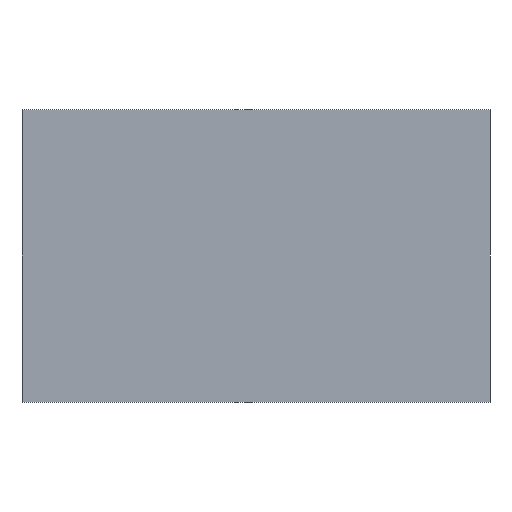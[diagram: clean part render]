
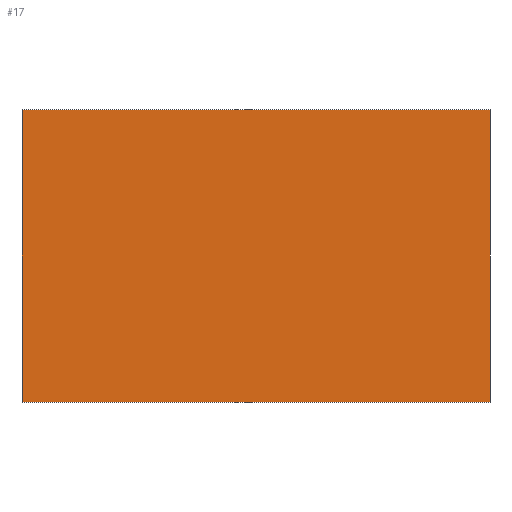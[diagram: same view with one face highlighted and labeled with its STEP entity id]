
A CAD part, left-side view. The second image highlights one B-rep face of the part: STEP entity #17.
In plain terms, the highlighted planar face has unit normal (-1, 0, 0).
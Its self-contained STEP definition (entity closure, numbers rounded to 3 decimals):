
#17 = ADVANCED_FACE('',(#18),#32,.F.);
#18 = FACE_BOUND('',#19,.F.);
#19 = EDGE_LOOP('',(#20,#55,#83,#111));
#20 = ORIENTED_EDGE('',*,*,#21,.F.);
#21 = EDGE_CURVE('',#22,#24,#26,.T.);
#22 = VERTEX_POINT('',#23);
#23 = CARTESIAN_POINT('',(-260.,15.,0.));
#24 = VERTEX_POINT('',#25);
#25 = CARTESIAN_POINT('',(-260.,15.,150.));
#26 = SURFACE_CURVE('',#27,(#31,#43),.PCURVE_S1.);
#27 = LINE('',#28,#29);
#28 = CARTESIAN_POINT('',(-260.,15.,0.));
#29 = VECTOR('',#30,1.);
#30 = DIRECTION('',(0.,0.,1.));
#31 = PCURVE('',#32,#37);
#32 = PLANE('',#33);
#33 = AXIS2_PLACEMENT_3D('',#34,#35,#36);
#34 = CARTESIAN_POINT('',(-260.,15.,0.));
#35 = DIRECTION('',(1.,0.,0.));
#36 = DIRECTION('',(0.,0.,1.));
#37 = DEFINITIONAL_REPRESENTATION('',(#38),#42);
#38 = LINE('',#39,#40);
#39 = CARTESIAN_POINT('',(0.,0.));
#40 = VECTOR('',#41,1.);
#41 = DIRECTION('',(1.,0.));
#42 = ( GEOMETRIC_REPRESENTATION_CONTEXT(2) 
PARAMETRIC_REPRESENTATION_CONTEXT() REPRESENTATION_CONTEXT('2D SPACE',''
  ) );
#43 = PCURVE('',#44,#49);
#44 = PLANE('',#45);
#45 = AXIS2_PLACEMENT_3D('',#46,#47,#48);
#46 = CARTESIAN_POINT('',(-260.,15.,0.));
#47 = DIRECTION('',(0.,1.,0.));
#48 = DIRECTION('',(0.,0.,1.));
#49 = DEFINITIONAL_REPRESENTATION('',(#50),#54);
#50 = LINE('',#51,#52);
#51 = CARTESIAN_POINT('',(0.,0.));
#52 = VECTOR('',#53,1.);
#53 = DIRECTION('',(1.,0.));
#54 = ( GEOMETRIC_REPRESENTATION_CONTEXT(2) 
PARAMETRIC_REPRESENTATION_CONTEXT() REPRESENTATION_CONTEXT('2D SPACE',''
  ) );
#55 = ORIENTED_EDGE('',*,*,#56,.T.);
#56 = EDGE_CURVE('',#22,#57,#59,.T.);
#57 = VERTEX_POINT('',#58);
#58 = CARTESIAN_POINT('',(-260.,255.,0.));
#59 = SURFACE_CURVE('',#60,(#64,#71),.PCURVE_S1.);
#60 = LINE('',#61,#62);
#61 = CARTESIAN_POINT('',(-260.,15.,0.));
#62 = VECTOR('',#63,1.);
#63 = DIRECTION('',(0.,1.,0.));
#64 = PCURVE('',#32,#65);
#65 = DEFINITIONAL_REPRESENTATION('',(#66),#70);
#66 = LINE('',#67,#68);
#67 = CARTESIAN_POINT('',(0.,0.));
#68 = VECTOR('',#69,1.);
#69 = DIRECTION('',(0.,-1.));
#70 = ( GEOMETRIC_REPRESENTATION_CONTEXT(2) 
PARAMETRIC_REPRESENTATION_CONTEXT() REPRESENTATION_CONTEXT('2D SPACE',''
  ) );
#71 = PCURVE('',#72,#77);
#72 = PLANE('',#73);
#73 = AXIS2_PLACEMENT_3D('',#74,#75,#76);
#74 = CARTESIAN_POINT('',(-260.,15.,0.));
#75 = DIRECTION('',(0.,0.,1.));
#76 = DIRECTION('',(1.,0.,0.));
#77 = DEFINITIONAL_REPRESENTATION('',(#78),#82);
#78 = LINE('',#79,#80);
#79 = CARTESIAN_POINT('',(0.,0.));
#80 = VECTOR('',#81,1.);
#81 = DIRECTION('',(0.,1.));
#82 = ( GEOMETRIC_REPRESENTATION_CONTEXT(2) 
PARAMETRIC_REPRESENTATION_CONTEXT() REPRESENTATION_CONTEXT('2D SPACE',''
  ) );
#83 = ORIENTED_EDGE('',*,*,#84,.T.);
#84 = EDGE_CURVE('',#57,#85,#87,.T.);
#85 = VERTEX_POINT('',#86);
#86 = CARTESIAN_POINT('',(-260.,255.,150.));
#87 = SURFACE_CURVE('',#88,(#92,#99),.PCURVE_S1.);
#88 = LINE('',#89,#90);
#89 = CARTESIAN_POINT('',(-260.,255.,0.));
#90 = VECTOR('',#91,1.);
#91 = DIRECTION('',(0.,0.,1.));
#92 = PCURVE('',#32,#93);
#93 = DEFINITIONAL_REPRESENTATION('',(#94),#98);
#94 = LINE('',#95,#96);
#95 = CARTESIAN_POINT('',(0.,-240.));
#96 = VECTOR('',#97,1.);
#97 = DIRECTION('',(1.,0.));
#98 = ( GEOMETRIC_REPRESENTATION_CONTEXT(2) 
PARAMETRIC_REPRESENTATION_CONTEXT() REPRESENTATION_CONTEXT('2D SPACE',''
  ) );
#99 = PCURVE('',#100,#105);
#100 = PLANE('',#101);
#101 = AXIS2_PLACEMENT_3D('',#102,#103,#104);
#102 = CARTESIAN_POINT('',(-260.,255.,0.));
#103 = DIRECTION('',(0.,1.,0.));
#104 = DIRECTION('',(0.,0.,1.));
#105 = DEFINITIONAL_REPRESENTATION('',(#106),#110);
#106 = LINE('',#107,#108);
#107 = CARTESIAN_POINT('',(0.,0.));
#108 = VECTOR('',#109,1.);
#109 = DIRECTION('',(1.,0.));
#110 = ( GEOMETRIC_REPRESENTATION_CONTEXT(2) 
PARAMETRIC_REPRESENTATION_CONTEXT() REPRESENTATION_CONTEXT('2D SPACE',''
  ) );
#111 = ORIENTED_EDGE('',*,*,#112,.F.);
#112 = EDGE_CURVE('',#24,#85,#113,.T.);
#113 = SURFACE_CURVE('',#114,(#118,#125),.PCURVE_S1.);
#114 = LINE('',#115,#116);
#115 = CARTESIAN_POINT('',(-260.,15.,150.));
#116 = VECTOR('',#117,1.);
#117 = DIRECTION('',(0.,1.,0.));
#118 = PCURVE('',#32,#119);
#119 = DEFINITIONAL_REPRESENTATION('',(#120),#124);
#120 = LINE('',#121,#122);
#121 = CARTESIAN_POINT('',(150.,0.));
#122 = VECTOR('',#123,1.);
#123 = DIRECTION('',(0.,-1.));
#124 = ( GEOMETRIC_REPRESENTATION_CONTEXT(2) 
PARAMETRIC_REPRESENTATION_CONTEXT() REPRESENTATION_CONTEXT('2D SPACE',''
  ) );
#125 = PCURVE('',#126,#131);
#126 = PLANE('',#127);
#127 = AXIS2_PLACEMENT_3D('',#128,#129,#130);
#128 = CARTESIAN_POINT('',(-260.,15.,150.));
#129 = DIRECTION('',(0.,0.,1.));
#130 = DIRECTION('',(1.,0.,0.));
#131 = DEFINITIONAL_REPRESENTATION('',(#132),#136);
#132 = LINE('',#133,#134);
#133 = CARTESIAN_POINT('',(0.,0.));
#134 = VECTOR('',#135,1.);
#135 = DIRECTION('',(0.,1.));
#136 = ( GEOMETRIC_REPRESENTATION_CONTEXT(2) 
PARAMETRIC_REPRESENTATION_CONTEXT() REPRESENTATION_CONTEXT('2D SPACE',''
  ) );
